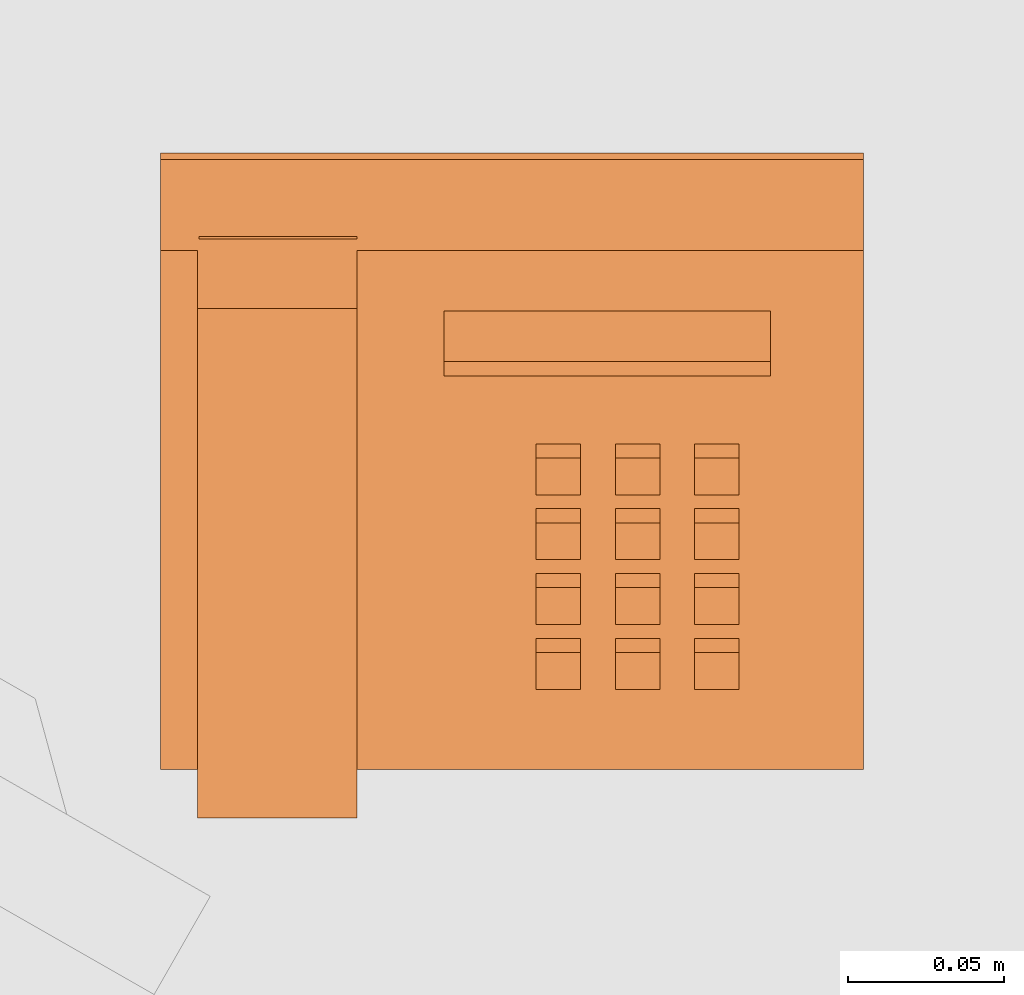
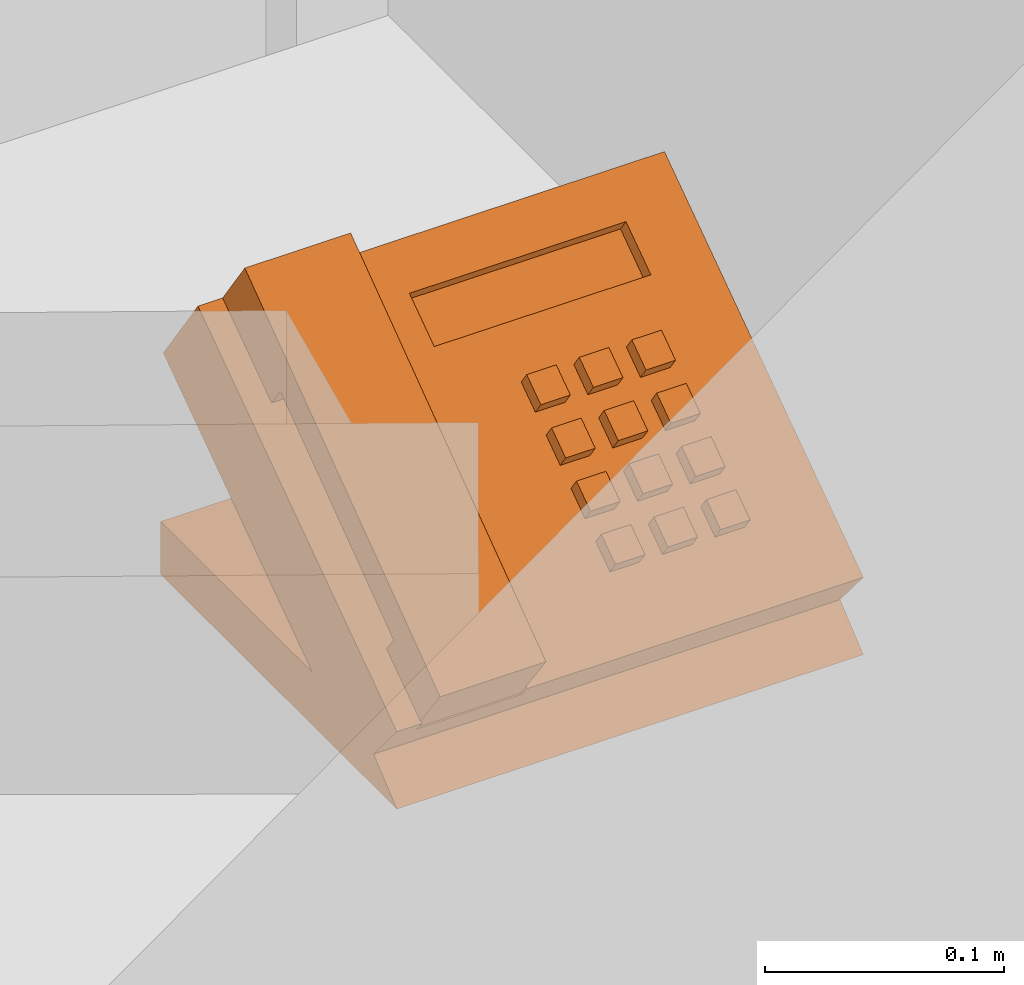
# One storey, part 15 of 15: 1 proxy.
"""IFC2X3 building model written with IfcOpenShell, lengths in feet."""

from ifc_helpers import new_model, entity, si_unit, converted_unit, derived_unit, direction, frame, origin, place, context, subcontext, project, spatial, faceted_brep, source, transform, mapped, material, material_list, type_object, type_shapes, element, save


model = new_model("IFC2X3")

# Units and contexts
model_context = context("Model", 3, precision=0.0001, world=origin(), true_north=direction((6.12303176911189e-17, 1.0)))
body_context = subcontext(model_context, "Body", "Model", "MODEL_VIEW")
ifc_project = project(units=[converted_unit("LENGTHUNIT", "FOOT", entity("IfcRatioMeasure", 0.3048), si_unit("LENGTHUNIT", "METRE"), dimensions=[1, 0, 0, 0, 0, 0, 0]), converted_unit("AREAUNIT", "SQUARE FOOT", entity("IfcRatioMeasure", 0.09290304), si_unit("AREAUNIT", "SQUARE_METRE"), dimensions=[2, 0, 0, 0, 0, 0, 0]), converted_unit("VOLUMEUNIT", "CUBIC FOOT", entity("IfcRatioMeasure", 0.028316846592), si_unit("VOLUMEUNIT", "CUBIC_METRE"), dimensions=[3, 0, 0, 0, 0, 0, 0]), converted_unit("PLANEANGLEUNIT", "DEGREE", entity("IfcRatioMeasure", 0.0174532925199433), si_unit("PLANEANGLEUNIT", "RADIAN"), dimensions=[0, 0, 0, 0, 0, 0, 0]), si_unit("MASSUNIT", "GRAM", prefix="KILO"), derived_unit("MASSDENSITYUNIT", [(si_unit("MASSUNIT", "GRAM", prefix="KILO"), 1), (si_unit("LENGTHUNIT", "METRE"), -3)]), si_unit("TIMEUNIT", "SECOND"), si_unit("FREQUENCYUNIT", "HERTZ"), si_unit("THERMODYNAMICTEMPERATUREUNIT", "DEGREE_CELSIUS"), derived_unit("THERMALTRANSMITTANCEUNIT", [(si_unit("MASSUNIT", "GRAM", prefix="KILO"), 1), (si_unit("THERMODYNAMICTEMPERATUREUNIT", "KELVIN"), -1), (si_unit("TIMEUNIT", "SECOND"), -3)]), derived_unit("VOLUMETRICFLOWRATEUNIT", [(si_unit("LENGTHUNIT", "METRE"), 3), (si_unit("TIMEUNIT", "SECOND"), -1)]), si_unit("ELECTRICCURRENTUNIT", "AMPERE"), si_unit("ELECTRICVOLTAGEUNIT", "VOLT"), si_unit("POWERUNIT", "WATT"), si_unit("FORCEUNIT", "NEWTON"), si_unit("ILLUMINANCEUNIT", "LUX"), si_unit("LUMINOUSFLUXUNIT", "LUMEN"), si_unit("LUMINOUSINTENSITYUNIT", "CANDELA"), derived_unit("USERDEFINED", [(si_unit("MASSUNIT", "GRAM", prefix="KILO"), -1), (si_unit("LENGTHUNIT", "METRE"), -2), (si_unit("TIMEUNIT", "SECOND"), 3), (si_unit("LUMINOUSFLUXUNIT", "LUMEN"), 1)]), derived_unit("LINEARVELOCITYUNIT", [(si_unit("LENGTHUNIT", "METRE"), 1), (si_unit("TIMEUNIT", "SECOND"), -1)]), si_unit("PRESSUREUNIT", "PASCAL"), derived_unit("USERDEFINED", [(si_unit("LENGTHUNIT", "METRE"), -2), (si_unit("MASSUNIT", "GRAM", prefix="KILO"), 1), (si_unit("TIMEUNIT", "SECOND"), -2)])], contexts=[model_context])

# Site, building, storey, space
site_placement = place(None, origin())
site = spatial("IfcSite", under=ifc_project, at=site_placement, Name="Default", CompositionType="ELEMENT")
building_placement = place(site_placement, origin())
building = spatial("IfcBuilding", under=site, at=building_placement, Name="EYE CLINIC:  OPTHALMOLOGY AND OPTOMETRY SERVICES (Ch. 233)", CompositionType="ELEMENT")
storey_placement = place(building_placement, origin())
storey = spatial("IfcBuildingStorey", under=building, at=storey_placement, Name="DATUM", CompositionType="ELEMENT", Elevation=0.0)
space_placement = place(storey_placement, origin())
space = spatial("IfcSpace", under=storey, at=space_placement, Name="(OPLV2)", CompositionType="ELEMENT", InteriorOrExteriorSpace="INTERNAL")

# Proxy
ifc_material_1 = material(Name="Plastic - White")
ifc_material_2 = material(Name="Plastic - Gray,Dark")
ifc_material_list_1 = material_list([ifc_material_1, ifc_material_2])
ifc_material_list_2 = material_list([ifc_material_1, ifc_material_2])
building_element_proxy_type = type_object("IfcBuildingElementProxyType", Name="UXX15 - Telephone, Desk, Low Vision", PredefinedType="NOTDEFINED", material=ifc_material_list_2)
shared_shape = source(origin(), body_context, "Body", "Brep", [
    faceted_brep([(0.0390625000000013, 0.438369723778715, 0.451787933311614), (0.0390625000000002, 0.127129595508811, 0.223329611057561), (0.0390625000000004, 0.161357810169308, 0.176698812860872), (0.0390625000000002, 0.0702116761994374, 0.109798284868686), (0.0390625, 0.0, 0.205455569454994), (0.0390625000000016, 0.536126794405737, 0.598968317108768), (0.039062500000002, 0.609276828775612, 0.494499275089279), (0.0390625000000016, 0.474528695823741, 0.400147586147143), (0.206937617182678, 0.438369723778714, 0.451787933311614), (0.206937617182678, 0.47452869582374, 0.400147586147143), (0.206937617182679, 0.609276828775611, 0.494499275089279), (0.206937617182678, 0.536126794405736, 0.598968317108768), (0.206937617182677, 0.0, 0.205455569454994), (0.206937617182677, 0.0702116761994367, 0.109798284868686), (0.206937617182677, 0.161357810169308, 0.176698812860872), (0.206937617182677, 0.127129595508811, 0.223329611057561)], [[[0, 1, 2, 3, 4, 5, 6, 7]], [[8, 9, 10, 11, 12, 13, 14, 15]], [[1, 0, 8, 15]], [[2, 1, 15, 14]], [[3, 2, 14, 13]], [[4, 3, 13, 12]], [[5, 4, 12, 11]], [[6, 5, 11, 10]], [[7, 6, 10, 9]], [[0, 7, 9, 8]]]),
    faceted_brep([(0.441995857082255, 0.242217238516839, 0.295395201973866), (0.395120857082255, 0.242217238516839, 0.295395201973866), (0.395120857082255, 0.203536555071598, 0.268310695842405), (0.441995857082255, 0.203536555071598, 0.268310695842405), (0.441995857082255, 0.257154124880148, 0.274063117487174), (0.441995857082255, 0.218473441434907, 0.246978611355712), (0.395120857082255, 0.218473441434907, 0.246978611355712), (0.395120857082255, 0.257154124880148, 0.274063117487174)], [[[0, 1, 2, 3]], [[4, 5, 6, 7]], [[1, 0, 4, 7]], [[2, 1, 7, 6]], [[3, 2, 6, 5]], [[0, 3, 5, 4]]]),
    faceted_brep([(0.441995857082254, 0.173954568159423, 0.247597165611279), (0.395120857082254, 0.173954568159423, 0.247597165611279), (0.395120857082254, 0.135273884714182, 0.220512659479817), (0.441995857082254, 0.135273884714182, 0.220512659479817), (0.441995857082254, 0.188891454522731, 0.226265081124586), (0.441995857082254, 0.150210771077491, 0.199180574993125), (0.395120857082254, 0.150210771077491, 0.199180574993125), (0.395120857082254, 0.188891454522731, 0.226265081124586)], [[[0, 1, 2, 3]], [[4, 5, 6, 7]], [[1, 0, 4, 7]], [[2, 1, 7, 6]], [[3, 2, 6, 5]], [[0, 3, 5, 4]]]),
    faceted_brep([(0.525329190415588, 0.173954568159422, 0.247597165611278), (0.478454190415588, 0.173954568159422, 0.247597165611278), (0.478454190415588, 0.135273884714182, 0.220512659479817), (0.525329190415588, 0.135273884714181, 0.220512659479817), (0.525329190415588, 0.188891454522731, 0.226265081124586), (0.525329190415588, 0.15021077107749, 0.199180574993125), (0.478454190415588, 0.15021077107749, 0.199180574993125), (0.478454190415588, 0.188891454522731, 0.226265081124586)], [[[0, 1, 2, 3]], [[4, 5, 6, 7]], [[1, 0, 4, 7]], [[2, 1, 7, 6]], [[3, 2, 6, 5]], [[0, 3, 5, 4]]]),
    faceted_brep([(0.608662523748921, 0.173954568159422, 0.247597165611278), (0.561787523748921, 0.173954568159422, 0.247597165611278), (0.561787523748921, 0.135273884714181, 0.220512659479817), (0.608662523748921, 0.135273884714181, 0.220512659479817), (0.608662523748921, 0.18889145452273, 0.226265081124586), (0.608662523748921, 0.15021077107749, 0.199180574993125), (0.561787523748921, 0.15021077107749, 0.199180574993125), (0.561787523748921, 0.18889145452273, 0.226265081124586)], [[[0, 1, 2, 3]], [[4, 5, 6, 7]], [[1, 0, 4, 7]], [[2, 1, 7, 6]], [[3, 2, 6, 5]], [[0, 3, 5, 4]]]),
    faceted_brep([(0.608662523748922, 0.242217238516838, 0.295395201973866), (0.561787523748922, 0.242217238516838, 0.295395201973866), (0.561787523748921, 0.203536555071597, 0.268310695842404), (0.608662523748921, 0.203536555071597, 0.268310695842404), (0.608662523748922, 0.257154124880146, 0.274063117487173), (0.608662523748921, 0.218473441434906, 0.246978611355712), (0.561787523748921, 0.218473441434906, 0.246978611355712), (0.561787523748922, 0.257154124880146, 0.274063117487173)], [[[0, 1, 2, 3]], [[4, 5, 6, 7]], [[1, 0, 4, 7]], [[2, 1, 7, 6]], [[3, 2, 6, 5]], [[0, 3, 5, 4]]]),
    faceted_brep([(0.525329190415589, 0.310479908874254, 0.343193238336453), (0.478454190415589, 0.310479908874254, 0.343193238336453), (0.478454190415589, 0.271799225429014, 0.316108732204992), (0.525329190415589, 0.271799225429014, 0.316108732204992), (0.525329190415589, 0.325416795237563, 0.321861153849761), (0.525329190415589, 0.286736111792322, 0.2947766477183), (0.478454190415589, 0.286736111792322, 0.2947766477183), (0.478454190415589, 0.325416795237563, 0.321861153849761)], [[[0, 1, 2, 3]], [[4, 5, 6, 7]], [[1, 0, 4, 7]], [[2, 1, 7, 6]], [[3, 2, 6, 5]], [[0, 3, 5, 4]]]),
    faceted_brep([(0.608662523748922, 0.310479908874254, 0.343193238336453), (0.561787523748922, 0.310479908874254, 0.343193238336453), (0.561787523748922, 0.271799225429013, 0.316108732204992), (0.608662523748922, 0.271799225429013, 0.316108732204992), (0.608662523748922, 0.325416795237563, 0.321861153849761), (0.608662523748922, 0.286736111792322, 0.2947766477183), (0.561787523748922, 0.286736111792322, 0.2947766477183), (0.561787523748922, 0.325416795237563, 0.321861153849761)], [[[0, 1, 2, 3]], [[4, 5, 6, 7]], [[1, 0, 4, 7]], [[2, 1, 7, 6]], [[3, 2, 6, 5]], [[0, 3, 5, 4]]]),
    faceted_brep([(0.525329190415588, 0.242217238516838, 0.295395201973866), (0.478454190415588, 0.242217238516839, 0.295395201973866), (0.478454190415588, 0.203536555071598, 0.268310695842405), (0.525329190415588, 0.203536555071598, 0.268310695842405), (0.525329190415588, 0.257154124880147, 0.274063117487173), (0.525329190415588, 0.218473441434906, 0.246978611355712), (0.478454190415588, 0.218473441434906, 0.246978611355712), (0.478454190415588, 0.257154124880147, 0.274063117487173)], [[[0, 1, 2, 3]], [[4, 5, 6, 7]], [[1, 0, 4, 7]], [[2, 1, 7, 6]], [[3, 2, 6, 5]], [[0, 3, 5, 4]]]),
    faceted_brep([(0.441995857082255, 0.310479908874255, 0.343193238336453), (0.395120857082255, 0.310479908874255, 0.343193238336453), (0.395120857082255, 0.271799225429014, 0.316108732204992), (0.441995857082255, 0.271799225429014, 0.316108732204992), (0.441995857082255, 0.325416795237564, 0.321861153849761), (0.441995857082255, 0.286736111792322, 0.294776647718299), (0.395120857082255, 0.286736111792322, 0.294776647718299), (0.395120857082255, 0.325416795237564, 0.321861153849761)], [[[0, 1, 2, 3]], [[4, 5, 6, 7]], [[1, 0, 4, 7]], [[2, 1, 7, 6]], [[3, 2, 6, 5]], [[0, 3, 5, 4]]]),
    faceted_brep([(0.608662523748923, 0.37874257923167, 0.39099127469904), (0.561787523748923, 0.37874257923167, 0.39099127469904), (0.561787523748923, 0.340061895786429, 0.363906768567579), (0.608662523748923, 0.340061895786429, 0.363906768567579), (0.608662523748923, 0.393679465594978, 0.369659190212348), (0.608662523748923, 0.354998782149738, 0.342574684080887), (0.561787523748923, 0.354998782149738, 0.342574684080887), (0.561787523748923, 0.393679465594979, 0.369659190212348)], [[[0, 1, 2, 3]], [[4, 5, 6, 7]], [[1, 0, 4, 7]], [[2, 1, 7, 6]], [[3, 2, 6, 5]], [[0, 3, 5, 4]]]),
    faceted_brep([(0.525329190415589, 0.37874257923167, 0.39099127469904), (0.478454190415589, 0.37874257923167, 0.39099127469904), (0.478454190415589, 0.34006189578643, 0.363906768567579), (0.525329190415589, 0.340061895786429, 0.363906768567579), (0.525329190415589, 0.393679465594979, 0.369659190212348), (0.525329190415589, 0.354998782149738, 0.342574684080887), (0.478454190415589, 0.354998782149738, 0.342574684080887), (0.478454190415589, 0.393679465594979, 0.369659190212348)], [[[0, 1, 2, 3]], [[4, 5, 6, 7]], [[1, 0, 4, 7]], [[2, 1, 7, 6]], [[3, 2, 6, 5]], [[0, 3, 5, 4]]]),
    faceted_brep([(0.441995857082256, 0.378742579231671, 0.390991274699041), (0.395120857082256, 0.378742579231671, 0.390991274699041), (0.395120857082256, 0.34006189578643, 0.363906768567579), (0.441995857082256, 0.34006189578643, 0.363906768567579), (0.441995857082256, 0.393679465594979, 0.369659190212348), (0.441995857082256, 0.354998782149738, 0.342574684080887), (0.395120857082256, 0.354998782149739, 0.342574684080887), (0.395120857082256, 0.39367946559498, 0.369659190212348)], [[[0, 1, 2, 3]], [[4, 5, 6, 7]], [[1, 0, 4, 7]], [[2, 1, 7, 6]], [[3, 2, 6, 5]], [[0, 3, 5, 4]]]),
    faceted_brep([(0.0, 0.114738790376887, 0.0535656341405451), (0.0, 0.0509017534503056, 0.129643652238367), (0.0, 0.597003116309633, 0.512027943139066), (0.0, 0.692599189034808, 0.375502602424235), (0.0, 0.283023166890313, 0.0887143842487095), (0.0, 0.69968983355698, 0.0887143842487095), (0.0, 0.699689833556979, 0.0), (0.0, 0.0509017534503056, 0.0), (0.739583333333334, 0.28302316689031, 0.0887143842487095), (0.739583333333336, 0.692599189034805, 0.375502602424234), (0.739583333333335, 0.59700311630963, 0.512027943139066), (0.739583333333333, 0.0509017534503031, 0.129643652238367), (0.739583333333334, 0.114738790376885, 0.0535656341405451), (0.739583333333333, 0.0509017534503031, 0.0), (0.739583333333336, 0.699689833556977, 0.0), (0.739583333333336, 0.699689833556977, 0.0887143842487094), (0.206937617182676, 0.0509017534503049, 0.129643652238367), (0.206937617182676, 0.0677049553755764, 0.109618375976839), (0.0402709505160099, 0.0677049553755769, 0.10961837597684), (0.0402709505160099, 0.0509017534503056, 0.129643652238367), (0.0402709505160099, 0.102098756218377, 0.165492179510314), (0.0514355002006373, 0.494609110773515, 0.44033088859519), (0.0519147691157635, 0.117219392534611, 0.176079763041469), (0.0635585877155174, 0.132340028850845, 0.186667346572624), (0.0666865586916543, 0.482116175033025, 0.431583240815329), (0.0819376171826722, 0.469623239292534, 0.422835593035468), (0.0826691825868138, 0.140973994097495, 0.192712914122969), (0.10177977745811, 0.149607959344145, 0.198758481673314), (0.102770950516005, 0.465050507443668, 0.41963373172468), (0.12360428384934, 0.460477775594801, 0.416431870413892), (0.123604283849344, 0.149607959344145, 0.198758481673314), (0.145428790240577, 0.149607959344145, 0.198758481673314), (0.144437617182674, 0.465050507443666, 0.419633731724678), (0.165270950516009, 0.46962323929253, 0.422835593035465), (0.2983751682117, 0.465089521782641, 0.419661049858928), (0.164539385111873, 0.140973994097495, 0.192712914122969), (0.18364997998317, 0.132340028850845, 0.186667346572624), (0.197176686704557, 0.114774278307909, 0.174367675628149), (0.206937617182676, 0.102098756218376, 0.165492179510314), (0.641718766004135, 0.46508952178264, 0.419661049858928), (0.641718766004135, 0.533352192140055, 0.467459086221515), (0.206937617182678, 0.597003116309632, 0.512027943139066), (0.2983751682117, 0.533352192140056, 0.467459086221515), (0.206937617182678, 0.528740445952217, 0.46422990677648), (0.201355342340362, 0.511674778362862, 0.452280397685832), (0.195773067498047, 0.494609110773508, 0.440330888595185), (0.180522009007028, 0.482116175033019, 0.431583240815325), (0.0458532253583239, 0.51167477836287, 0.452280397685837), (0.0402709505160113, 0.528740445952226, 0.464229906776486), (0.0402709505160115, 0.597003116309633, 0.512027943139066), (0.0402709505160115, 0.611940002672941, 0.490695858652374), (0.206937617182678, 0.611940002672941, 0.490695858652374), (0.641718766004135, 0.548289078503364, 0.446127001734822), (0.2983751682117, 0.548289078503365, 0.446127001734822), (0.2983751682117, 0.48002640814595, 0.398328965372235), (0.641718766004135, 0.480026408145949, 0.398328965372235), (0.142147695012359, 0.477126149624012, 0.396298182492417), (0.158854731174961, 0.483716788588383, 0.400912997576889), (0.175561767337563, 0.490307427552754, 0.40552781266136), (0.187123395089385, 0.502183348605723, 0.413843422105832), (0.198685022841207, 0.514059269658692, 0.422159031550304), (0.202956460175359, 0.529389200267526, 0.432893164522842), (0.206937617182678, 0.543677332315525, 0.442897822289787), (0.0402709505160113, 0.543677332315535, 0.442897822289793), (0.0442521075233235, 0.529389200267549, 0.432893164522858), (0.0485235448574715, 0.514059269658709, 0.422159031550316), (0.0600851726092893, 0.502183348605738, 0.413843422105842), (0.0716468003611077, 0.490307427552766, 0.405527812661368), (0.0883538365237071, 0.483716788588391, 0.400912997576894), (0.105060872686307, 0.477126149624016, 0.39629818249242), (0.123604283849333, 0.477126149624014, 0.396298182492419), (0.206937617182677, 0.117035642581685, 0.144160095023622), (0.195293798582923, 0.132156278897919, 0.154747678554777), (0.183649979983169, 0.147276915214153, 0.165335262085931), (0.164539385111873, 0.155910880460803, 0.171380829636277), (0.145428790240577, 0.164544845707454, 0.177426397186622), (0.123604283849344, 0.164544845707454, 0.177426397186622), (0.10177977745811, 0.164544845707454, 0.177426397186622), (0.082669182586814, 0.155910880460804, 0.171380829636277), (0.0635585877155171, 0.147276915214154, 0.165335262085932), (0.0500318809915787, 0.129711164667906, 0.153035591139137), (0.0402709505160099, 0.117035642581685, 0.144160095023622)], [[[0, 1, 2, 3, 4, 5, 6, 7]], [[8, 9, 10, 11, 12, 13, 14, 15]], [[0, 7, 13, 12]], [[0, 12, 11, 16, 17, 18, 19, 1]], [[1, 19, 20]], [[21, 1, 20]], [[2, 1, 21]], [[21, 20, 22]], [[21, 22, 23]], [[23, 24, 21]], [[23, 25, 24]], [[25, 23, 26]], [[25, 26, 27]], [[27, 28, 25]], [[27, 29, 28]], [[29, 27, 30]], [[29, 30, 31]], [[31, 32, 29]], [[31, 33, 32]], [[34, 33, 31]], [[34, 31, 35]], [[34, 35, 36]], [[34, 36, 37]], [[34, 37, 38]], [[38, 39, 34]], [[39, 38, 11]], [[38, 16, 11]], [[39, 11, 10]], [[10, 40, 39]], [[10, 41, 40]], [[40, 41, 42]], [[42, 41, 43]], [[42, 43, 44]], [[42, 44, 45]], [[34, 45, 46]], [[42, 45, 34]], [[34, 46, 33]], [[2, 21, 47]], [[2, 47, 48]], [[2, 48, 49]], [[2, 49, 50, 51, 41, 10, 9, 3]], [[4, 3, 9, 8]], [[5, 4, 8, 15]], [[6, 5, 15, 14]], [[7, 6, 14, 13]], [[52, 53, 54, 55]], [[56, 57, 58, 59, 60, 61, 62, 51, 50, 63, 64, 65, 66, 67, 68, 69, 70]], [[17, 71, 72, 73, 74, 75, 76, 77, 78, 79, 80, 81, 18]], [[52, 40, 42, 53]], [[54, 53, 42, 34]], [[54, 34, 39, 55]], [[55, 39, 40, 52]], [[50, 49, 48, 63]], [[18, 81, 20, 19]], [[64, 63, 48]], [[56, 29, 32]], [[33, 57, 32]], [[66, 24, 67]], [[64, 47, 65]], [[21, 65, 47]], [[28, 68, 25]], [[65, 21, 66]], [[68, 28, 69]], [[47, 64, 48]], [[56, 32, 57]], [[45, 60, 59]], [[45, 59, 46]], [[56, 70, 69, 29]], [[33, 58, 57]], [[45, 44, 60]], [[43, 62, 61]], [[33, 46, 58]], [[24, 66, 21]], [[58, 46, 59]], [[44, 43, 61]], [[24, 25, 67]], [[29, 69, 28]], [[68, 67, 25]], [[61, 60, 44]], [[62, 43, 41, 51]], [[17, 16, 38, 71]], [[73, 72, 71, 38, 37, 36]], [[20, 81, 80, 79, 23, 22]], [[36, 35, 31, 75, 74, 73]], [[77, 76, 75, 31, 30, 27]], [[27, 26, 23, 79, 78, 77]]]),
])
type_shapes(building_element_proxy_type, [shared_shape])
proxy_placement = place(space_placement, frame((348.69929463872, 9.51074159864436, 3.0)))
element("IfcBuildingElementProxy", 1, at=proxy_placement, inside=space, type_object=building_element_proxy_type, material=ifc_material_list_1, Name="UXX15 - Telephone, Desk, Low Vision:UXX15 - Telephone, Desk, Low Vision", ObjectType="UXX15 - Telephone, Desk, Low Vision", context=body_context, shape_type="MappedRepresentation", body=[
    mapped(shared_shape, transform((0.0, 0.0, 0.0), scale=1.0)),
])

save(model, "model.ifc")
